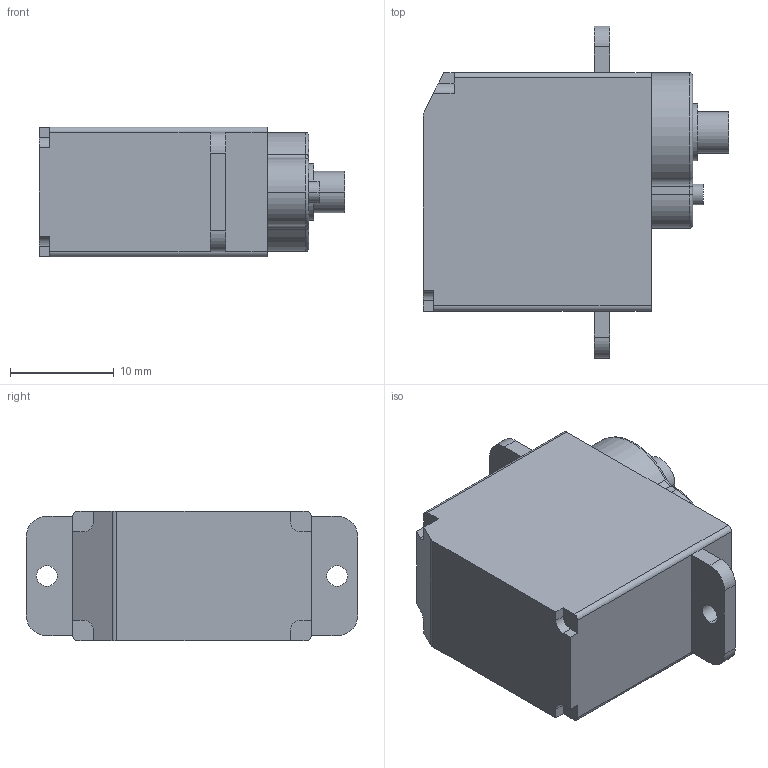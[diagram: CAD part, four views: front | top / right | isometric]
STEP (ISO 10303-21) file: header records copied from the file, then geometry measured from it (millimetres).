
FILE_DESCRIPTION (( 'STEP AP203' ), '1' );
FILE_NAME ('9G嗆儂.ST', '2026-09-16T02:56:19', ( '' ), ( '' ), 'SwSTEP 2.0', 'SolidWorks 2024', '' );
FILE_SCHEMA (( 'CONFIG_CONTROL_DESIGN' ));
Length unit declared in the file: millimetre
Products named in the file (1): 9G舵机
Bounding box: 29.5 x 32 x 12.5 mm (x, y, z)
Volume: 6941.5 mm3; surface area: 2535.3 mm2
Topology: 1 solids, 1 shells, 72 faces, 186 edges, 119 vertices
Faces by surface type: plane 37, cylinder 30, torus 5
Entity records: 2283 total; most frequent: DIRECTION 398, CARTESIAN_POINT 384, ORIENTED_EDGE 372, EDGE_CURVE 186, AXIS2_PLACEMENT_3D 141, VERTEX_POINT 119, VECTOR 116, LINE 116
